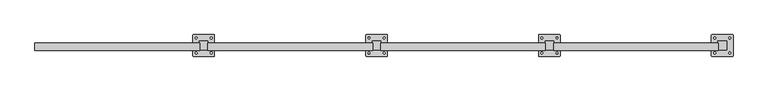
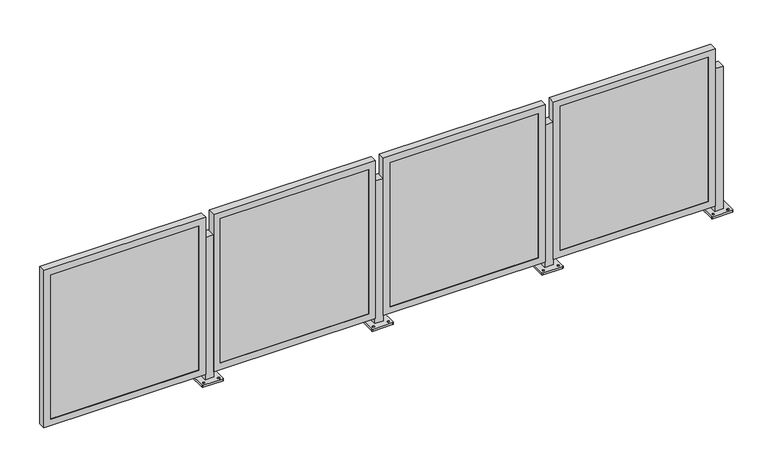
"""IFC4 building model written with IfcOpenShell, lengths in millimetres: railing geometry, Railing - Amico Architectural - Perforated Railing - Apex04."""

from ifc_helpers import new_model, si_unit, frame, origin, place, context, project, spatial, polyline, circle_curve, outline, extrude, faceted_brep, source, transform, mapped, element, save
from ifc_brep_helpers import plane_surface, cylinder_surface, revolved_surface, advanced_brep


def railing_f84e100f(model_context):
    return source(origin(), model_context, "Body", "SolidModel", [
        advanced_brep(
        [(-7234.771202, 4857.370021, 914.4), (-7234.771202, 4806.570021, 914.4), (-7183.971202, 4806.570021, 914.4), (-7183.971202, 4857.370021, 914.4), (-7272.8712022, 4771.645062, 0.0), (-7272.8712022, 4892.29498, 0.0), (-7269.696174, 4895.4700081, 0.0), (-7149.04623, 4895.4700081, 0.0), (-7145.8712019, 4892.29498, 0.0), (-7145.8712019, 4771.645062, 0.0), (-7149.04623, 4768.4700339, 0.0), (-7269.696174, 4768.4700339, 0.0), (-7253.8211896, 4781.9637664, 0.0), (-7253.8211896, 4793.0762788, 0.0), (-7253.8212005, 4870.8637707, 0.0), (-7253.8212005, 4881.9762523, 0.0), (-7164.9211886, 4781.9637679, 0.0), (-7164.9211886, 4793.0762786, 0.0), (-7164.9211995, 4870.8637723, 0.0), (-7164.9211995, 4881.9762521, 0.0), (-7234.771202, 4857.370021, 12.7), (-7234.771202, 4806.570021, 12.7), (-7183.971202, 4806.570021, 12.7), (-7183.971202, 4857.370021, 12.7), (-7272.8712022, 4771.645062, 12.7), (-7269.696174, 4768.4700339, 12.7), (-7149.04623, 4768.4700339, 12.7), (-7145.8712019, 4771.645062, 12.7), (-7145.8712019, 4892.29498, 12.7), (-7149.04623, 4895.4700081, 12.7), (-7269.696174, 4895.4700081, 12.7), (-7272.8712022, 4892.29498, 12.7), (-7253.8211896, 4781.9637664, 12.7), (-7253.8211896, 4793.0762788, 12.7), (-7253.8212005, 4870.8637707, 12.7), (-7253.8212005, 4881.9762523, 12.7), (-7164.9211886, 4781.9637679, 12.7), (-7164.9211886, 4793.0762786, 12.7), (-7164.9211995, 4870.8637723, 12.7), (-7164.9211995, 4881.9762521, 12.7)],
        [
            (0, 1),
            (1, 2),
            (2, 3),
            (3, 0),
            (4, 5),
            (5, 6, circle_curve(frame((-7269.696174, 4892.29498, 0.0), z_axis=(0.0, 0.0, -1.0), x_axis=(0.0, 1.0, 0.0)), 3.1750282)),
            (6, 7),
            (7, 8, circle_curve(frame((-7149.04623, 4892.29498, 0.0), z_axis=(0.0, 0.0, -1.0), x_axis=(0.0, 1.0, 0.0)), 3.1750282)),
            (8, 9),
            (9, 10, circle_curve(frame((-7149.04623, 4771.645062, 0.0), z_axis=(0.0, 0.0, -1.0), x_axis=(0.0, 1.0, 0.0)), 3.1750282)),
            (10, 11),
            (11, 4, circle_curve(frame((-7269.696174, 4771.645062, 0.0), z_axis=(0.0, 0.0, -1.0), x_axis=(0.0, 1.0, 0.0)), 3.1750282)),
            (12, 13, circle_curve(frame((-7253.8211896, 4787.5200226, 0.0), z_axis=(0.0, 0.0, 1.0), x_axis=(0.0, 1.0, 0.0)), 5.5562562)),
            (13, 12, circle_curve(frame((-7253.8211896, 4787.5200226, 0.0), z_axis=(0.0, 0.0, 1.0), x_axis=(0.0, 1.0, 0.0)), 5.5562562)),
            (14, 15, circle_curve(frame((-7253.8212005, 4876.4200115, 0.0), z_axis=(0.0, 0.0, 1.0), x_axis=(0.0, 1.0, 0.0)), 5.5562408)),
            (15, 14, circle_curve(frame((-7253.8212005, 4876.4200115, 0.0), z_axis=(0.0, 0.0, 1.0), x_axis=(0.0, 1.0, 0.0)), 5.5562408)),
            (16, 17, circle_curve(frame((-7164.9211886, 4787.5200232, 0.0), z_axis=(0.0, 0.0, 1.0), x_axis=(0.0, 1.0, 0.0)), 5.5562553)),
            (17, 16, circle_curve(frame((-7164.9211886, 4787.5200232, 0.0), z_axis=(0.0, 0.0, 1.0), x_axis=(0.0, 1.0, 0.0)), 5.5562553)),
            (18, 19, circle_curve(frame((-7164.9211995, 4876.4200122, 0.0), z_axis=(0.0, 0.0, 1.0), x_axis=(0.0, 1.0, 0.0)), 5.5562399)),
            (19, 18, circle_curve(frame((-7164.9211995, 4876.4200122, 0.0), z_axis=(0.0, 0.0, 1.0), x_axis=(0.0, 1.0, 0.0)), 5.5562399)),
            (0, 20),
            (20, 21),
            (21, 1),
            (21, 22),
            (22, 2),
            (22, 23),
            (23, 3),
            (23, 20),
            (24, 25, circle_curve(frame((-7269.696174, 4771.645062, 12.7), z_axis=(0.0, 0.0, 1.0), x_axis=(0.0, 1.0, 0.0)), 3.1750282)),
            (25, 26),
            (26, 27, circle_curve(frame((-7149.04623, 4771.645062, 12.7), z_axis=(0.0, 0.0, 1.0), x_axis=(0.0, 1.0, 0.0)), 3.1750282)),
            (27, 28),
            (28, 29, circle_curve(frame((-7149.04623, 4892.29498, 12.7), z_axis=(0.0, 0.0, 1.0), x_axis=(0.0, 1.0, 0.0)), 3.1750282)),
            (29, 30),
            (30, 31, circle_curve(frame((-7269.696174, 4892.29498, 12.7), z_axis=(0.0, 0.0, 1.0), x_axis=(0.0, 1.0, 0.0)), 3.1750282)),
            (31, 24),
            (32, 33, circle_curve(frame((-7253.8211896, 4787.5200226, 12.7), z_axis=(0.0, 0.0, -1.0), x_axis=(0.0, 1.0, 0.0)), 5.5562562)),
            (33, 32, circle_curve(frame((-7253.8211896, 4787.5200226, 12.7), z_axis=(0.0, 0.0, -1.0), x_axis=(0.0, 1.0, 0.0)), 5.5562562)),
            (34, 35, circle_curve(frame((-7253.8212005, 4876.4200115, 12.7), z_axis=(0.0, 0.0, -1.0), x_axis=(0.0, 1.0, 0.0)), 5.5562408)),
            (35, 34, circle_curve(frame((-7253.8212005, 4876.4200115, 12.7), z_axis=(0.0, 0.0, -1.0), x_axis=(0.0, 1.0, 0.0)), 5.5562408)),
            (36, 37, circle_curve(frame((-7164.9211886, 4787.5200232, 12.7), z_axis=(0.0, 0.0, -1.0), x_axis=(0.0, 1.0, 0.0)), 5.5562553)),
            (37, 36, circle_curve(frame((-7164.9211886, 4787.5200232, 12.7), z_axis=(0.0, 0.0, -1.0), x_axis=(0.0, 1.0, 0.0)), 5.5562553)),
            (38, 39, circle_curve(frame((-7164.9211995, 4876.4200122, 12.7), z_axis=(0.0, 0.0, -1.0), x_axis=(0.0, 1.0, 0.0)), 5.5562399)),
            (39, 38, circle_curve(frame((-7164.9211995, 4876.4200122, 12.7), z_axis=(0.0, 0.0, -1.0), x_axis=(0.0, 1.0, 0.0)), 5.5562399)),
            (24, 4),
            (11, 25),
            (10, 26),
            (9, 27),
            (8, 28),
            (7, 29),
            (6, 30),
            (5, 31),
            (32, 12),
            (13, 33),
            (34, 14),
            (15, 35),
            (36, 16),
            (17, 37),
            (38, 18),
            (19, 39),
        ],
        [
            plane_surface(frame((-7234.771202, 4806.570021, 914.4), z_axis=(0.0, 0.0, 1.0), x_axis=(0.0, -1.0, 0.0))),
            plane_surface(frame((-7234.771202, 4806.570021, 0.0), z_axis=(0.0, 0.0, -1.0), x_axis=(0.0, 1.0, 0.0))),
            plane_surface(frame((-7234.771202, 4857.370021, 914.4), z_axis=(-1.0, 0.0, 0.0), x_axis=(0.0, 0.0, -1.0))),
            plane_surface(frame((-7234.771202, 4806.570021, 914.4), z_axis=(0.0, -1.0, 0.0), x_axis=(0.0, 0.0, -1.0))),
            plane_surface(frame((-7183.971202, 4806.570021, 914.4), z_axis=(1.0, 0.0, 0.0), x_axis=(0.0, 0.0, -1.0))),
            plane_surface(frame((-7183.971202, 4857.370021, 914.4), z_axis=(0.0, 1.0, 0.0), x_axis=(0.0, 0.0, -1.0))),
            plane_surface(frame((-7269.696174, 4774.8200902, 12.7), z_axis=(0.0, 0.0, 1.0), x_axis=(-1.0, 0.0, 0.0))),
            cylinder_surface(frame((-7269.696174, 4771.645062, 0.0), z_axis=(0.0, 0.0, 1.0), x_axis=(0.0, 1.0, 0.0)), 3.1750282),
            plane_surface(frame((-7269.696174, 4768.4700339, 12.7), z_axis=(1.1945386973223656e-12, -1.0, 0.0), x_axis=(0.0, 0.0, -1.0))),
            cylinder_surface(frame((-7149.04623, 4771.645062, 0.0), z_axis=(0.0, 0.0, 1.0), x_axis=(0.0, 1.0, 0.0)), 3.1750282),
            plane_surface(frame((-7145.8712019, 4771.645062, 12.7), z_axis=(1.0, 0.0, 0.0), x_axis=(0.0, 0.0, -1.0))),
            cylinder_surface(frame((-7149.04623, 4892.29498, 0.0), z_axis=(0.0, 0.0, 1.0), x_axis=(0.0, 1.0, 0.0)), 3.1750282),
            plane_surface(frame((-7149.04623, 4895.4700081, 12.7), z_axis=(-1.1946088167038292e-12, 1.0, 0.0), x_axis=(0.0, 0.0, -1.0))),
            cylinder_surface(frame((-7269.696174, 4892.29498, 0.0), z_axis=(0.0, 0.0, 1.0), x_axis=(0.0, 1.0, 0.0)), 3.1750282),
            plane_surface(frame((-7272.8712022, 4892.29498, 12.7), z_axis=(-1.0, 0.0, 0.0), x_axis=(0.0, 0.0, -1.0))),
            revolved_surface(polyline([(-7253.8211896, 4793.076278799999, 0.0), (-7253.8211896, 4793.076278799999, 12.7)]), (-7253.8211896, 4787.5200226, 0.0), (0.0, 0.0, -1.0)),
            revolved_surface(polyline([(-7253.8212005, 4881.9762523, 0.0), (-7253.8212005, 4881.9762523, 12.7)]), (-7253.8212005, 4876.4200115, 0.0), (0.0, 0.0, -1.0)),
            revolved_surface(polyline([(-7164.9211886, 4793.0762785, 0.0), (-7164.9211886, 4793.0762785, 12.7)]), (-7164.9211886, 4787.5200232, 0.0), (0.0, 0.0, -1.0)),
            revolved_surface(polyline([(-7164.9211995, 4881.9762521, 0.0), (-7164.9211995, 4881.9762521, 12.7)]), (-7164.9211995, 4876.4200122, 0.0), (0.0, 0.0, -1.0)),
        ],
        [
            (0, [[1, 2, 3, 4]]),
            (1, [[5, 6, 7, 8, 9, 10, 11, 12], [13, 14], [15, 16], [17, 18], [19, 20]]),
            (2, [[-1, 21, 22, 23]]),
            (3, [[-2, -23, 24, 25]]),
            (4, [[-3, -25, 26, 27]]),
            (5, [[-4, -27, 28, -21]]),
            (6, [[29, 30, 31, 32, 33, 34, 35, 36], [-22, -28, -26, -24], [37, 38], [39, 40], [41, 42], [43, 44]]),
            (7, [[-29, 45, -12, 46]]),
            (8, [[-30, -46, -11, 47]]),
            (9, [[-31, -47, -10, 48]]),
            (10, [[-32, -48, -9, 49]]),
            (11, [[-33, -49, -8, 50]]),
            (12, [[-34, -50, -7, 51]]),
            (13, [[-35, -51, -6, 52]]),
            (14, [[-36, -52, -5, -45]]),
            (15, [[-37, 53, -14, 54]]),
            (15, [[-38, -54, -13, -53]]),
            (16, [[-39, 55, -16, 56]]),
            (16, [[-40, -56, -15, -55]]),
            (17, [[-41, 57, -18, 58]]),
            (17, [[-42, -58, -17, -57]]),
            (18, [[-43, 59, -20, 60]]),
            (18, [[-44, -60, -19, -59]]),
        ],
    ),
        faceted_brep([(-8201.1756554, 4803.826821, 47.625), (-7232.8006554, 4803.826821, 47.625), (-7232.8006554, 4803.826821, 1044.575), (-8201.1756554, 4803.826821, 1044.575), (-8159.9006554, 4803.826821, 1003.3), (-7274.0756554, 4803.826821, 1003.3), (-7274.0756554, 4803.826821, 88.9), (-8159.9006554, 4803.826821, 88.9), (-8159.9006554, 4806.570021, 1003.3), (-8159.9006554, 4806.570021, 88.9), (-8201.1756554, 4847.7001175, 1044.575), (-8201.1756554, 4847.7001175, 47.625), (-8198.0006554, 4847.7001175, 1041.4), (-8198.0006554, 4806.570021, 1041.4), (-8198.0006554, 4806.570021, 50.8), (-8198.0006554, 4847.7001175, 50.8), (-7274.0756554, 4806.570021, 88.9), (-7232.8006554, 4847.7001175, 47.625), (-7235.9756554, 4806.570021, 50.8), (-7235.9756554, 4847.7001175, 50.8), (-7274.0756554, 4806.570021, 1003.3), (-7232.8006554, 4847.7001175, 1044.575), (-7235.9756554, 4806.570021, 1041.4), (-7235.9756554, 4847.7001175, 1041.4)], [[[0, 1, 2, 3], [4, 5, 6, 7]], [[8, 4, 7, 9]], [[3, 10, 11, 0]], [[12, 13, 14, 15]], [[9, 7, 6, 16]], [[0, 11, 17, 1]], [[15, 14, 18, 19]], [[16, 6, 5, 20]], [[1, 17, 21, 2]], [[19, 18, 22, 23]], [[20, 5, 4, 8]], [[10, 21, 17, 11], [15, 19, 23, 12]], [[2, 21, 10, 3]], [[13, 22, 18, 14], [9, 16, 20, 8]], [[23, 22, 13, 12]]]),
        extrude(outline(polyline([(-8198.0006554, 4816.095021), (-7235.9756554, 4816.095021), (-7235.9756554, 4806.570021), (-8198.0006554, 4806.570021), (-8198.0006554, 4816.095021)])), frame((0.0, 0.0, 50.8), z_axis=(0.0, 0.0, 1.0), x_axis=(1.0, 0.0, 0.0)), (0.0, 0.0, 1.0), 990.6),
        advanced_brep(
        [(-8250.771202, 4857.370021, 914.4), (-8250.771202, 4806.570021, 914.4), (-8199.971202, 4806.570021, 914.4), (-8199.971202, 4857.370021, 914.4), (-8288.8712022, 4771.645062, 0.0), (-8288.8712022, 4892.29498, 0.0), (-8285.696174, 4895.4700081, 0.0), (-8165.04623, 4895.4700081, 0.0), (-8161.8712019, 4892.29498, 0.0), (-8161.8712019, 4771.645062, 0.0), (-8165.04623, 4768.4700339, 0.0), (-8285.696174, 4768.4700339, 0.0), (-8269.8211896, 4781.9637664, 0.0), (-8269.8211896, 4793.0762788, 0.0), (-8269.8212005, 4870.8637707, 0.0), (-8269.8212005, 4881.9762523, 0.0), (-8180.9211886, 4781.9637679, 0.0), (-8180.9211886, 4793.0762786, 0.0), (-8180.9211995, 4870.8637723, 0.0), (-8180.9211995, 4881.9762521, 0.0), (-8250.771202, 4857.370021, 12.7), (-8250.771202, 4806.570021, 12.7), (-8199.971202, 4806.570021, 12.7), (-8199.971202, 4857.370021, 12.7), (-8288.8712022, 4771.645062, 12.7), (-8285.696174, 4768.4700339, 12.7), (-8165.04623, 4768.4700339, 12.7), (-8161.8712019, 4771.645062, 12.7), (-8161.8712019, 4892.29498, 12.7), (-8165.04623, 4895.4700081, 12.7), (-8285.696174, 4895.4700081, 12.7), (-8288.8712022, 4892.29498, 12.7), (-8269.8211896, 4781.9637664, 12.7), (-8269.8211896, 4793.0762788, 12.7), (-8269.8212005, 4870.8637707, 12.7), (-8269.8212005, 4881.9762523, 12.7), (-8180.9211886, 4781.9637679, 12.7), (-8180.9211886, 4793.0762786, 12.7), (-8180.9211995, 4870.8637723, 12.7), (-8180.9211995, 4881.9762521, 12.7)],
        [
            (0, 1),
            (1, 2),
            (2, 3),
            (3, 0),
            (4, 5),
            (5, 6, circle_curve(frame((-8285.696174, 4892.29498, 0.0), z_axis=(0.0, 0.0, -1.0), x_axis=(0.0, 1.0, 0.0)), 3.1750282)),
            (6, 7),
            (7, 8, circle_curve(frame((-8165.04623, 4892.29498, 0.0), z_axis=(0.0, 0.0, -1.0), x_axis=(0.0, 1.0, 0.0)), 3.1750282)),
            (8, 9),
            (9, 10, circle_curve(frame((-8165.04623, 4771.645062, 0.0), z_axis=(0.0, 0.0, -1.0), x_axis=(0.0, 1.0, 0.0)), 3.1750282)),
            (10, 11),
            (11, 4, circle_curve(frame((-8285.696174, 4771.645062, 0.0), z_axis=(0.0, 0.0, -1.0), x_axis=(0.0, 1.0, 0.0)), 3.1750282)),
            (12, 13, circle_curve(frame((-8269.8211896, 4787.5200226, 0.0), z_axis=(0.0, 0.0, 1.0), x_axis=(0.0, 1.0, 0.0)), 5.5562562)),
            (13, 12, circle_curve(frame((-8269.8211896, 4787.5200226, 0.0), z_axis=(0.0, 0.0, 1.0), x_axis=(0.0, 1.0, 0.0)), 5.5562562)),
            (14, 15, circle_curve(frame((-8269.8212005, 4876.4200115, 0.0), z_axis=(0.0, 0.0, 1.0), x_axis=(0.0, 1.0, 0.0)), 5.5562408)),
            (15, 14, circle_curve(frame((-8269.8212005, 4876.4200115, 0.0), z_axis=(0.0, 0.0, 1.0), x_axis=(0.0, 1.0, 0.0)), 5.5562408)),
            (16, 17, circle_curve(frame((-8180.9211886, 4787.5200232, 0.0), z_axis=(0.0, 0.0, 1.0), x_axis=(0.0, 1.0, 0.0)), 5.5562553)),
            (17, 16, circle_curve(frame((-8180.9211886, 4787.5200232, 0.0), z_axis=(0.0, 0.0, 1.0), x_axis=(0.0, 1.0, 0.0)), 5.5562553)),
            (18, 19, circle_curve(frame((-8180.9211995, 4876.4200122, 0.0), z_axis=(0.0, 0.0, 1.0), x_axis=(0.0, 1.0, 0.0)), 5.5562399)),
            (19, 18, circle_curve(frame((-8180.9211995, 4876.4200122, 0.0), z_axis=(0.0, 0.0, 1.0), x_axis=(0.0, 1.0, 0.0)), 5.5562399)),
            (0, 20),
            (20, 21),
            (21, 1),
            (21, 22),
            (22, 2),
            (22, 23),
            (23, 3),
            (23, 20),
            (24, 25, circle_curve(frame((-8285.696174, 4771.645062, 12.7), z_axis=(0.0, 0.0, 1.0), x_axis=(0.0, 1.0, 0.0)), 3.1750282)),
            (25, 26),
            (26, 27, circle_curve(frame((-8165.04623, 4771.645062, 12.7), z_axis=(0.0, 0.0, 1.0), x_axis=(0.0, 1.0, 0.0)), 3.1750282)),
            (27, 28),
            (28, 29, circle_curve(frame((-8165.04623, 4892.29498, 12.7), z_axis=(0.0, 0.0, 1.0), x_axis=(0.0, 1.0, 0.0)), 3.1750282)),
            (29, 30),
            (30, 31, circle_curve(frame((-8285.696174, 4892.29498, 12.7), z_axis=(0.0, 0.0, 1.0), x_axis=(0.0, 1.0, 0.0)), 3.1750282)),
            (31, 24),
            (32, 33, circle_curve(frame((-8269.8211896, 4787.5200226, 12.7), z_axis=(0.0, 0.0, -1.0), x_axis=(0.0, 1.0, 0.0)), 5.5562562)),
            (33, 32, circle_curve(frame((-8269.8211896, 4787.5200226, 12.7), z_axis=(0.0, 0.0, -1.0), x_axis=(0.0, 1.0, 0.0)), 5.5562562)),
            (34, 35, circle_curve(frame((-8269.8212005, 4876.4200115, 12.7), z_axis=(0.0, 0.0, -1.0), x_axis=(0.0, 1.0, 0.0)), 5.5562408)),
            (35, 34, circle_curve(frame((-8269.8212005, 4876.4200115, 12.7), z_axis=(0.0, 0.0, -1.0), x_axis=(0.0, 1.0, 0.0)), 5.5562408)),
            (36, 37, circle_curve(frame((-8180.9211886, 4787.5200232, 12.7), z_axis=(0.0, 0.0, -1.0), x_axis=(0.0, 1.0, 0.0)), 5.5562553)),
            (37, 36, circle_curve(frame((-8180.9211886, 4787.5200232, 12.7), z_axis=(0.0, 0.0, -1.0), x_axis=(0.0, 1.0, 0.0)), 5.5562553)),
            (38, 39, circle_curve(frame((-8180.9211995, 4876.4200122, 12.7), z_axis=(0.0, 0.0, -1.0), x_axis=(0.0, 1.0, 0.0)), 5.5562399)),
            (39, 38, circle_curve(frame((-8180.9211995, 4876.4200122, 12.7), z_axis=(0.0, 0.0, -1.0), x_axis=(0.0, 1.0, 0.0)), 5.5562399)),
            (24, 4),
            (11, 25),
            (10, 26),
            (9, 27),
            (8, 28),
            (7, 29),
            (6, 30),
            (5, 31),
            (32, 12),
            (13, 33),
            (34, 14),
            (15, 35),
            (36, 16),
            (17, 37),
            (38, 18),
            (19, 39),
        ],
        [
            plane_surface(frame((-8250.771202, 4806.570021, 914.4), z_axis=(0.0, 0.0, 1.0), x_axis=(0.0, -1.0, 0.0))),
            plane_surface(frame((-8250.771202, 4806.570021, 0.0), z_axis=(0.0, 0.0, -1.0), x_axis=(0.0, 1.0, 0.0))),
            plane_surface(frame((-8250.771202, 4857.370021, 914.4), z_axis=(-1.0, 0.0, 0.0), x_axis=(0.0, 0.0, -1.0))),
            plane_surface(frame((-8250.771202, 4806.570021, 914.4), z_axis=(0.0, -1.0, 0.0), x_axis=(0.0, 0.0, -1.0))),
            plane_surface(frame((-8199.971202, 4806.570021, 914.4), z_axis=(1.0, 0.0, 0.0), x_axis=(0.0, 0.0, -1.0))),
            plane_surface(frame((-8199.971202, 4857.370021, 914.4), z_axis=(0.0, 1.0, 0.0), x_axis=(0.0, 0.0, -1.0))),
            plane_surface(frame((-8285.696174, 4774.8200902, 12.7), z_axis=(0.0, 0.0, 1.0), x_axis=(-1.0, 0.0, 0.0))),
            cylinder_surface(frame((-8285.696174, 4771.645062, 0.0), z_axis=(0.0, 0.0, 1.0), x_axis=(0.0, 1.0, 0.0)), 3.1750282),
            plane_surface(frame((-8285.696174, 4768.4700339, 12.7), z_axis=(1.1945386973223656e-12, -1.0, 0.0), x_axis=(0.0, 0.0, -1.0))),
            cylinder_surface(frame((-8165.04623, 4771.645062, 0.0), z_axis=(0.0, 0.0, 1.0), x_axis=(0.0, 1.0, 0.0)), 3.1750282),
            plane_surface(frame((-8161.8712019, 4771.645062, 12.7), z_axis=(1.0, 0.0, 0.0), x_axis=(0.0, 0.0, -1.0))),
            cylinder_surface(frame((-8165.04623, 4892.29498, 0.0), z_axis=(0.0, 0.0, 1.0), x_axis=(0.0, 1.0, 0.0)), 3.1750282),
            plane_surface(frame((-8165.04623, 4895.4700081, 12.7), z_axis=(-1.1946088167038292e-12, 1.0, 0.0), x_axis=(0.0, 0.0, -1.0))),
            cylinder_surface(frame((-8285.696174, 4892.29498, 0.0), z_axis=(0.0, 0.0, 1.0), x_axis=(0.0, 1.0, 0.0)), 3.1750282),
            plane_surface(frame((-8288.8712022, 4892.29498, 12.7), z_axis=(-1.0, 0.0, 0.0), x_axis=(0.0, 0.0, -1.0))),
            revolved_surface(polyline([(-8269.8211896, 4793.076278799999, 0.0), (-8269.8211896, 4793.076278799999, 12.7)]), (-8269.8211896, 4787.5200226, 0.0), (0.0, 0.0, -1.0)),
            revolved_surface(polyline([(-8269.8212005, 4881.9762523, 0.0), (-8269.8212005, 4881.9762523, 12.7)]), (-8269.8212005, 4876.4200115, 0.0), (0.0, 0.0, -1.0)),
            revolved_surface(polyline([(-8180.9211886, 4793.0762785, 0.0), (-8180.9211886, 4793.0762785, 12.7)]), (-8180.9211886, 4787.5200232, 0.0), (0.0, 0.0, -1.0)),
            revolved_surface(polyline([(-8180.9211995, 4881.9762521, 0.0), (-8180.9211995, 4881.9762521, 12.7)]), (-8180.9211995, 4876.4200122, 0.0), (0.0, 0.0, -1.0)),
        ],
        [
            (0, [[1, 2, 3, 4]]),
            (1, [[5, 6, 7, 8, 9, 10, 11, 12], [13, 14], [15, 16], [17, 18], [19, 20]]),
            (2, [[-1, 21, 22, 23]]),
            (3, [[-2, -23, 24, 25]]),
            (4, [[-3, -25, 26, 27]]),
            (5, [[-4, -27, 28, -21]]),
            (6, [[29, 30, 31, 32, 33, 34, 35, 36], [-22, -28, -26, -24], [37, 38], [39, 40], [41, 42], [43, 44]]),
            (7, [[-29, 45, -12, 46]]),
            (8, [[-30, -46, -11, 47]]),
            (9, [[-31, -47, -10, 48]]),
            (10, [[-32, -48, -9, 49]]),
            (11, [[-33, -49, -8, 50]]),
            (12, [[-34, -50, -7, 51]]),
            (13, [[-35, -51, -6, 52]]),
            (14, [[-36, -52, -5, -45]]),
            (15, [[-37, 53, -14, 54]]),
            (15, [[-38, -54, -13, -53]]),
            (16, [[-39, 55, -16, 56]]),
            (16, [[-40, -56, -15, -55]]),
            (17, [[-41, 57, -18, 58]]),
            (17, [[-42, -58, -17, -57]]),
            (18, [[-43, 59, -20, 60]]),
            (18, [[-44, -60, -19, -59]]),
        ],
    ),
        faceted_brep([(-9217.1756554, 4803.826821, 47.625), (-8248.8006554, 4803.826821, 47.625), (-8248.8006554, 4803.826821, 1044.575), (-9217.1756554, 4803.826821, 1044.575), (-9175.9006554, 4803.826821, 1003.3), (-8290.0756554, 4803.826821, 1003.3), (-8290.0756554, 4803.826821, 88.9), (-9175.9006554, 4803.826821, 88.9), (-9175.9006554, 4806.570021, 1003.3), (-9175.9006554, 4806.570021, 88.9), (-9217.1756554, 4847.7001175, 1044.575), (-9217.1756554, 4847.7001175, 47.625), (-9214.0006554, 4847.7001175, 1041.4), (-9214.0006554, 4806.570021, 1041.4), (-9214.0006554, 4806.570021, 50.8), (-9214.0006554, 4847.7001175, 50.8), (-8290.0756554, 4806.570021, 88.9), (-8248.8006554, 4847.7001175, 47.625), (-8251.9756554, 4806.570021, 50.8), (-8251.9756554, 4847.7001175, 50.8), (-8290.0756554, 4806.570021, 1003.3), (-8248.8006554, 4847.7001175, 1044.575), (-8251.9756554, 4806.570021, 1041.4), (-8251.9756554, 4847.7001175, 1041.4)], [[[0, 1, 2, 3], [4, 5, 6, 7]], [[8, 4, 7, 9]], [[3, 10, 11, 0]], [[12, 13, 14, 15]], [[9, 7, 6, 16]], [[0, 11, 17, 1]], [[15, 14, 18, 19]], [[16, 6, 5, 20]], [[1, 17, 21, 2]], [[19, 18, 22, 23]], [[20, 5, 4, 8]], [[10, 21, 17, 11], [15, 19, 23, 12]], [[2, 21, 10, 3]], [[13, 22, 18, 14], [9, 16, 20, 8]], [[23, 22, 13, 12]]]),
        extrude(outline(polyline([(-9214.0006554, 4816.095021), (-8251.9756554, 4816.095021), (-8251.9756554, 4806.570021), (-9214.0006554, 4806.570021), (-9214.0006554, 4816.095021)])), frame((0.0, 0.0, 50.8), z_axis=(0.0, 0.0, 1.0), x_axis=(1.0, 0.0, 0.0)), (0.0, 0.0, 1.0), 990.6),
        advanced_brep(
        [(-9266.771202, 4857.370021, 914.4), (-9266.771202, 4806.570021, 914.4), (-9215.971202, 4806.570021, 914.4), (-9215.971202, 4857.370021, 914.4), (-9304.8712022, 4771.645062, 0.0), (-9304.8712022, 4892.29498, 0.0), (-9301.696174, 4895.4700081, 0.0), (-9181.04623, 4895.4700081, 0.0), (-9177.8712019, 4892.29498, 0.0), (-9177.8712019, 4771.645062, 0.0), (-9181.04623, 4768.4700339, 0.0), (-9301.696174, 4768.4700339, 0.0), (-9285.8211896, 4781.9637664, 0.0), (-9285.8211896, 4793.0762788, 0.0), (-9285.8212005, 4870.8637707, 0.0), (-9285.8212005, 4881.9762523, 0.0), (-9196.9211886, 4781.9637679, 0.0), (-9196.9211886, 4793.0762786, 0.0), (-9196.9211995, 4870.8637723, 0.0), (-9196.9211995, 4881.9762521, 0.0), (-9266.771202, 4857.370021, 12.7), (-9266.771202, 4806.570021, 12.7), (-9215.971202, 4806.570021, 12.7), (-9215.971202, 4857.370021, 12.7), (-9304.8712022, 4771.645062, 12.7), (-9301.696174, 4768.4700339, 12.7), (-9181.04623, 4768.4700339, 12.7), (-9177.8712019, 4771.645062, 12.7), (-9177.8712019, 4892.29498, 12.7), (-9181.04623, 4895.4700081, 12.7), (-9301.696174, 4895.4700081, 12.7), (-9304.8712022, 4892.29498, 12.7), (-9285.8211896, 4781.9637664, 12.7), (-9285.8211896, 4793.0762788, 12.7), (-9285.8212005, 4870.8637707, 12.7), (-9285.8212005, 4881.9762523, 12.7), (-9196.9211886, 4781.9637679, 12.7), (-9196.9211886, 4793.0762786, 12.7), (-9196.9211995, 4870.8637723, 12.7), (-9196.9211995, 4881.9762521, 12.7)],
        [
            (0, 1),
            (1, 2),
            (2, 3),
            (3, 0),
            (4, 5),
            (5, 6, circle_curve(frame((-9301.696174, 4892.29498, 0.0), z_axis=(0.0, 0.0, -1.0), x_axis=(0.0, 1.0, 0.0)), 3.1750282)),
            (6, 7),
            (7, 8, circle_curve(frame((-9181.04623, 4892.29498, 0.0), z_axis=(0.0, 0.0, -1.0), x_axis=(0.0, 1.0, 0.0)), 3.1750282)),
            (8, 9),
            (9, 10, circle_curve(frame((-9181.04623, 4771.645062, 0.0), z_axis=(0.0, 0.0, -1.0), x_axis=(0.0, 1.0, 0.0)), 3.1750282)),
            (10, 11),
            (11, 4, circle_curve(frame((-9301.696174, 4771.645062, 0.0), z_axis=(0.0, 0.0, -1.0), x_axis=(0.0, 1.0, 0.0)), 3.1750282)),
            (12, 13, circle_curve(frame((-9285.8211896, 4787.5200226, 0.0), z_axis=(0.0, 0.0, 1.0), x_axis=(0.0, 1.0, 0.0)), 5.5562562)),
            (13, 12, circle_curve(frame((-9285.8211896, 4787.5200226, 0.0), z_axis=(0.0, 0.0, 1.0), x_axis=(0.0, 1.0, 0.0)), 5.5562562)),
            (14, 15, circle_curve(frame((-9285.8212005, 4876.4200115, 0.0), z_axis=(0.0, 0.0, 1.0), x_axis=(0.0, 1.0, 0.0)), 5.5562408)),
            (15, 14, circle_curve(frame((-9285.8212005, 4876.4200115, 0.0), z_axis=(0.0, 0.0, 1.0), x_axis=(0.0, 1.0, 0.0)), 5.5562408)),
            (16, 17, circle_curve(frame((-9196.9211886, 4787.5200232, 0.0), z_axis=(0.0, 0.0, 1.0), x_axis=(0.0, 1.0, 0.0)), 5.5562553)),
            (17, 16, circle_curve(frame((-9196.9211886, 4787.5200232, 0.0), z_axis=(0.0, 0.0, 1.0), x_axis=(0.0, 1.0, 0.0)), 5.5562553)),
            (18, 19, circle_curve(frame((-9196.9211995, 4876.4200122, 0.0), z_axis=(0.0, 0.0, 1.0), x_axis=(0.0, 1.0, 0.0)), 5.5562399)),
            (19, 18, circle_curve(frame((-9196.9211995, 4876.4200122, 0.0), z_axis=(0.0, 0.0, 1.0), x_axis=(0.0, 1.0, 0.0)), 5.5562399)),
            (0, 20),
            (20, 21),
            (21, 1),
            (21, 22),
            (22, 2),
            (22, 23),
            (23, 3),
            (23, 20),
            (24, 25, circle_curve(frame((-9301.696174, 4771.645062, 12.7), z_axis=(0.0, 0.0, 1.0), x_axis=(0.0, 1.0, 0.0)), 3.1750282)),
            (25, 26),
            (26, 27, circle_curve(frame((-9181.04623, 4771.645062, 12.7), z_axis=(0.0, 0.0, 1.0), x_axis=(0.0, 1.0, 0.0)), 3.1750282)),
            (27, 28),
            (28, 29, circle_curve(frame((-9181.04623, 4892.29498, 12.7), z_axis=(0.0, 0.0, 1.0), x_axis=(0.0, 1.0, 0.0)), 3.1750282)),
            (29, 30),
            (30, 31, circle_curve(frame((-9301.696174, 4892.29498, 12.7), z_axis=(0.0, 0.0, 1.0), x_axis=(0.0, 1.0, 0.0)), 3.1750282)),
            (31, 24),
            (32, 33, circle_curve(frame((-9285.8211896, 4787.5200226, 12.7), z_axis=(0.0, 0.0, -1.0), x_axis=(0.0, 1.0, 0.0)), 5.5562562)),
            (33, 32, circle_curve(frame((-9285.8211896, 4787.5200226, 12.7), z_axis=(0.0, 0.0, -1.0), x_axis=(0.0, 1.0, 0.0)), 5.5562562)),
            (34, 35, circle_curve(frame((-9285.8212005, 4876.4200115, 12.7), z_axis=(0.0, 0.0, -1.0), x_axis=(0.0, 1.0, 0.0)), 5.5562408)),
            (35, 34, circle_curve(frame((-9285.8212005, 4876.4200115, 12.7), z_axis=(0.0, 0.0, -1.0), x_axis=(0.0, 1.0, 0.0)), 5.5562408)),
            (36, 37, circle_curve(frame((-9196.9211886, 4787.5200232, 12.7), z_axis=(0.0, 0.0, -1.0), x_axis=(0.0, 1.0, 0.0)), 5.5562553)),
            (37, 36, circle_curve(frame((-9196.9211886, 4787.5200232, 12.7), z_axis=(0.0, 0.0, -1.0), x_axis=(0.0, 1.0, 0.0)), 5.5562553)),
            (38, 39, circle_curve(frame((-9196.9211995, 4876.4200122, 12.7), z_axis=(0.0, 0.0, -1.0), x_axis=(0.0, 1.0, 0.0)), 5.5562399)),
            (39, 38, circle_curve(frame((-9196.9211995, 4876.4200122, 12.7), z_axis=(0.0, 0.0, -1.0), x_axis=(0.0, 1.0, 0.0)), 5.5562399)),
            (24, 4),
            (11, 25),
            (10, 26),
            (9, 27),
            (8, 28),
            (7, 29),
            (6, 30),
            (5, 31),
            (32, 12),
            (13, 33),
            (34, 14),
            (15, 35),
            (36, 16),
            (17, 37),
            (38, 18),
            (19, 39),
        ],
        [
            plane_surface(frame((-9266.771202, 4806.570021, 914.4), z_axis=(0.0, 0.0, 1.0), x_axis=(0.0, -1.0, 0.0))),
            plane_surface(frame((-9266.771202, 4806.570021, 0.0), z_axis=(0.0, 0.0, -1.0), x_axis=(0.0, 1.0, 0.0))),
            plane_surface(frame((-9266.771202, 4857.370021, 914.4), z_axis=(-1.0, 0.0, 0.0), x_axis=(0.0, 0.0, -1.0))),
            plane_surface(frame((-9266.771202, 4806.570021, 914.4), z_axis=(0.0, -1.0, 0.0), x_axis=(0.0, 0.0, -1.0))),
            plane_surface(frame((-9215.971202, 4806.570021, 914.4), z_axis=(1.0, 0.0, 0.0), x_axis=(0.0, 0.0, -1.0))),
            plane_surface(frame((-9215.971202, 4857.370021, 914.4), z_axis=(0.0, 1.0, 0.0), x_axis=(0.0, 0.0, -1.0))),
            plane_surface(frame((-9301.696174, 4774.8200902, 12.7), z_axis=(0.0, 0.0, 1.0), x_axis=(-1.0, 0.0, 0.0))),
            cylinder_surface(frame((-9301.696174, 4771.645062, 0.0), z_axis=(0.0, 0.0, 1.0), x_axis=(0.0, 1.0, 0.0)), 3.1750282),
            plane_surface(frame((-9301.696174, 4768.4700339, 12.7), z_axis=(1.1945386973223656e-12, -1.0, 0.0), x_axis=(0.0, 0.0, -1.0))),
            cylinder_surface(frame((-9181.04623, 4771.645062, 0.0), z_axis=(0.0, 0.0, 1.0), x_axis=(0.0, 1.0, 0.0)), 3.1750282),
            plane_surface(frame((-9177.8712019, 4771.645062, 12.7), z_axis=(1.0, 0.0, 0.0), x_axis=(0.0, 0.0, -1.0))),
            cylinder_surface(frame((-9181.04623, 4892.29498, 0.0), z_axis=(0.0, 0.0, 1.0), x_axis=(0.0, 1.0, 0.0)), 3.1750282),
            plane_surface(frame((-9181.04623, 4895.4700081, 12.7), z_axis=(-1.1946088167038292e-12, 1.0, 0.0), x_axis=(0.0, 0.0, -1.0))),
            cylinder_surface(frame((-9301.696174, 4892.29498, 0.0), z_axis=(0.0, 0.0, 1.0), x_axis=(0.0, 1.0, 0.0)), 3.1750282),
            plane_surface(frame((-9304.8712022, 4892.29498, 12.7), z_axis=(-1.0, 0.0, 0.0), x_axis=(0.0, 0.0, -1.0))),
            revolved_surface(polyline([(-9285.8211896, 4793.076278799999, 0.0), (-9285.8211896, 4793.076278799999, 12.7)]), (-9285.8211896, 4787.5200226, 0.0), (0.0, 0.0, -1.0)),
            revolved_surface(polyline([(-9285.8212005, 4881.9762523, 0.0), (-9285.8212005, 4881.9762523, 12.7)]), (-9285.8212005, 4876.4200115, 0.0), (0.0, 0.0, -1.0)),
            revolved_surface(polyline([(-9196.9211886, 4793.0762785, 0.0), (-9196.9211886, 4793.0762785, 12.7)]), (-9196.9211886, 4787.5200232, 0.0), (0.0, 0.0, -1.0)),
            revolved_surface(polyline([(-9196.9211995, 4881.9762521, 0.0), (-9196.9211995, 4881.9762521, 12.7)]), (-9196.9211995, 4876.4200122, 0.0), (0.0, 0.0, -1.0)),
        ],
        [
            (0, [[1, 2, 3, 4]]),
            (1, [[5, 6, 7, 8, 9, 10, 11, 12], [13, 14], [15, 16], [17, 18], [19, 20]]),
            (2, [[-1, 21, 22, 23]]),
            (3, [[-2, -23, 24, 25]]),
            (4, [[-3, -25, 26, 27]]),
            (5, [[-4, -27, 28, -21]]),
            (6, [[29, 30, 31, 32, 33, 34, 35, 36], [-22, -28, -26, -24], [37, 38], [39, 40], [41, 42], [43, 44]]),
            (7, [[-29, 45, -12, 46]]),
            (8, [[-30, -46, -11, 47]]),
            (9, [[-31, -47, -10, 48]]),
            (10, [[-32, -48, -9, 49]]),
            (11, [[-33, -49, -8, 50]]),
            (12, [[-34, -50, -7, 51]]),
            (13, [[-35, -51, -6, 52]]),
            (14, [[-36, -52, -5, -45]]),
            (15, [[-37, 53, -14, 54]]),
            (15, [[-38, -54, -13, -53]]),
            (16, [[-39, 55, -16, 56]]),
            (16, [[-40, -56, -15, -55]]),
            (17, [[-41, 57, -18, 58]]),
            (17, [[-42, -58, -17, -57]]),
            (18, [[-43, 59, -20, 60]]),
            (18, [[-44, -60, -19, -59]]),
        ],
    ),
        faceted_brep([(-10233.1756554, 4803.826821, 47.625), (-9264.8006554, 4803.826821, 47.625), (-9264.8006554, 4803.826821, 1044.575), (-10233.1756554, 4803.826821, 1044.575), (-10191.9006554, 4803.826821, 1003.3), (-9306.0756554, 4803.826821, 1003.3), (-9306.0756554, 4803.826821, 88.9), (-10191.9006554, 4803.826821, 88.9), (-10191.9006554, 4806.570021, 1003.3), (-10191.9006554, 4806.570021, 88.9), (-10233.1756554, 4847.7001175, 1044.575), (-10233.1756554, 4847.7001175, 47.625), (-10230.0006554, 4847.7001175, 1041.4), (-10230.0006554, 4806.570021, 1041.4), (-10230.0006554, 4806.570021, 50.8), (-10230.0006554, 4847.7001175, 50.8), (-9306.0756554, 4806.570021, 88.9), (-9264.8006554, 4847.7001175, 47.625), (-9267.9756554, 4806.570021, 50.8), (-9267.9756554, 4847.7001175, 50.8), (-9306.0756554, 4806.570021, 1003.3), (-9264.8006554, 4847.7001175, 1044.575), (-9267.9756554, 4806.570021, 1041.4), (-9267.9756554, 4847.7001175, 1041.4)], [[[0, 1, 2, 3], [4, 5, 6, 7]], [[8, 4, 7, 9]], [[3, 10, 11, 0]], [[12, 13, 14, 15]], [[9, 7, 6, 16]], [[0, 11, 17, 1]], [[15, 14, 18, 19]], [[16, 6, 5, 20]], [[1, 17, 21, 2]], [[19, 18, 22, 23]], [[20, 5, 4, 8]], [[10, 21, 17, 11], [15, 19, 23, 12]], [[2, 21, 10, 3]], [[13, 22, 18, 14], [9, 16, 20, 8]], [[23, 22, 13, 12]]]),
        extrude(outline(polyline([(-10230.0006554, 4816.095021), (-9267.9756554, 4816.095021), (-9267.9756554, 4806.570021), (-10230.0006554, 4806.570021), (-10230.0006554, 4816.095021)])), frame((0.0, 0.0, 50.8), z_axis=(0.0, 0.0, 1.0), x_axis=(1.0, 0.0, 0.0)), (0.0, 0.0, 1.0), 990.6),
        advanced_brep(
        [(-10282.771202, 4857.370021, 914.4), (-10282.771202, 4806.570021, 914.4), (-10231.971202, 4806.570021, 914.4), (-10231.971202, 4857.370021, 914.4), (-10320.8712022, 4771.645062, 0.0), (-10320.8712022, 4892.29498, 0.0), (-10317.696174, 4895.4700081, 0.0), (-10197.04623, 4895.4700081, 0.0), (-10193.8712019, 4892.29498, 0.0), (-10193.8712019, 4771.645062, 0.0), (-10197.04623, 4768.4700339, 0.0), (-10317.696174, 4768.4700339, 0.0), (-10301.8211896, 4781.9637664, 0.0), (-10301.8211896, 4793.0762788, 0.0), (-10301.8212005, 4870.8637707, 0.0), (-10301.8212005, 4881.9762523, 0.0), (-10212.9211886, 4781.9637679, 0.0), (-10212.9211886, 4793.0762786, 0.0), (-10212.9211995, 4870.8637723, 0.0), (-10212.9211995, 4881.9762521, 0.0), (-10282.771202, 4857.370021, 12.7), (-10282.771202, 4806.570021, 12.7), (-10231.971202, 4806.570021, 12.7), (-10231.971202, 4857.370021, 12.7), (-10320.8712022, 4771.645062, 12.7), (-10317.696174, 4768.4700339, 12.7), (-10197.04623, 4768.4700339, 12.7), (-10193.8712019, 4771.645062, 12.7), (-10193.8712019, 4892.29498, 12.7), (-10197.04623, 4895.4700081, 12.7), (-10317.696174, 4895.4700081, 12.7), (-10320.8712022, 4892.29498, 12.7), (-10301.8211896, 4781.9637664, 12.7), (-10301.8211896, 4793.0762788, 12.7), (-10301.8212005, 4870.8637707, 12.7), (-10301.8212005, 4881.9762523, 12.7), (-10212.9211886, 4781.9637679, 12.7), (-10212.9211886, 4793.0762786, 12.7), (-10212.9211995, 4870.8637723, 12.7), (-10212.9211995, 4881.9762521, 12.7)],
        [
            (0, 1),
            (1, 2),
            (2, 3),
            (3, 0),
            (4, 5),
            (5, 6, circle_curve(frame((-10317.696174, 4892.29498, 0.0), z_axis=(0.0, 0.0, -1.0), x_axis=(0.0, 1.0, 0.0)), 3.1750282)),
            (6, 7),
            (7, 8, circle_curve(frame((-10197.04623, 4892.29498, 0.0), z_axis=(0.0, 0.0, -1.0), x_axis=(0.0, 1.0, 0.0)), 3.1750282)),
            (8, 9),
            (9, 10, circle_curve(frame((-10197.04623, 4771.645062, 0.0), z_axis=(0.0, 0.0, -1.0), x_axis=(0.0, 1.0, 0.0)), 3.1750282)),
            (10, 11),
            (11, 4, circle_curve(frame((-10317.696174, 4771.645062, 0.0), z_axis=(0.0, 0.0, -1.0), x_axis=(0.0, 1.0, 0.0)), 3.1750282)),
            (12, 13, circle_curve(frame((-10301.8211896, 4787.5200226, 0.0), z_axis=(0.0, 0.0, 1.0), x_axis=(0.0, 1.0, 0.0)), 5.5562562)),
            (13, 12, circle_curve(frame((-10301.8211896, 4787.5200226, 0.0), z_axis=(0.0, 0.0, 1.0), x_axis=(0.0, 1.0, 0.0)), 5.5562562)),
            (14, 15, circle_curve(frame((-10301.8212005, 4876.4200115, 0.0), z_axis=(0.0, 0.0, 1.0), x_axis=(0.0, 1.0, 0.0)), 5.5562408)),
            (15, 14, circle_curve(frame((-10301.8212005, 4876.4200115, 0.0), z_axis=(0.0, 0.0, 1.0), x_axis=(0.0, 1.0, 0.0)), 5.5562408)),
            (16, 17, circle_curve(frame((-10212.9211886, 4787.5200232, 0.0), z_axis=(0.0, 0.0, 1.0), x_axis=(0.0, 1.0, 0.0)), 5.5562553)),
            (17, 16, circle_curve(frame((-10212.9211886, 4787.5200232, 0.0), z_axis=(0.0, 0.0, 1.0), x_axis=(0.0, 1.0, 0.0)), 5.5562553)),
            (18, 19, circle_curve(frame((-10212.9211995, 4876.4200122, 0.0), z_axis=(0.0, 0.0, 1.0), x_axis=(0.0, 1.0, 0.0)), 5.5562399)),
            (19, 18, circle_curve(frame((-10212.9211995, 4876.4200122, 0.0), z_axis=(0.0, 0.0, 1.0), x_axis=(0.0, 1.0, 0.0)), 5.5562399)),
            (0, 20),
            (20, 21),
            (21, 1),
            (21, 22),
            (22, 2),
            (22, 23),
            (23, 3),
            (23, 20),
            (24, 25, circle_curve(frame((-10317.696174, 4771.645062, 12.7), z_axis=(0.0, 0.0, 1.0), x_axis=(0.0, 1.0, 0.0)), 3.1750282)),
            (25, 26),
            (26, 27, circle_curve(frame((-10197.04623, 4771.645062, 12.7), z_axis=(0.0, 0.0, 1.0), x_axis=(0.0, 1.0, 0.0)), 3.1750282)),
            (27, 28),
            (28, 29, circle_curve(frame((-10197.04623, 4892.29498, 12.7), z_axis=(0.0, 0.0, 1.0), x_axis=(0.0, 1.0, 0.0)), 3.1750282)),
            (29, 30),
            (30, 31, circle_curve(frame((-10317.696174, 4892.29498, 12.7), z_axis=(0.0, 0.0, 1.0), x_axis=(0.0, 1.0, 0.0)), 3.1750282)),
            (31, 24),
            (32, 33, circle_curve(frame((-10301.8211896, 4787.5200226, 12.7), z_axis=(0.0, 0.0, -1.0), x_axis=(0.0, 1.0, 0.0)), 5.5562562)),
            (33, 32, circle_curve(frame((-10301.8211896, 4787.5200226, 12.7), z_axis=(0.0, 0.0, -1.0), x_axis=(0.0, 1.0, 0.0)), 5.5562562)),
            (34, 35, circle_curve(frame((-10301.8212005, 4876.4200115, 12.7), z_axis=(0.0, 0.0, -1.0), x_axis=(0.0, 1.0, 0.0)), 5.5562408)),
            (35, 34, circle_curve(frame((-10301.8212005, 4876.4200115, 12.7), z_axis=(0.0, 0.0, -1.0), x_axis=(0.0, 1.0, 0.0)), 5.5562408)),
            (36, 37, circle_curve(frame((-10212.9211886, 4787.5200232, 12.7), z_axis=(0.0, 0.0, -1.0), x_axis=(0.0, 1.0, 0.0)), 5.5562553)),
            (37, 36, circle_curve(frame((-10212.9211886, 4787.5200232, 12.7), z_axis=(0.0, 0.0, -1.0), x_axis=(0.0, 1.0, 0.0)), 5.5562553)),
            (38, 39, circle_curve(frame((-10212.9211995, 4876.4200122, 12.7), z_axis=(0.0, 0.0, -1.0), x_axis=(0.0, 1.0, 0.0)), 5.5562399)),
            (39, 38, circle_curve(frame((-10212.9211995, 4876.4200122, 12.7), z_axis=(0.0, 0.0, -1.0), x_axis=(0.0, 1.0, 0.0)), 5.5562399)),
            (24, 4),
            (11, 25),
            (10, 26),
            (9, 27),
            (8, 28),
            (7, 29),
            (6, 30),
            (5, 31),
            (32, 12),
            (13, 33),
            (34, 14),
            (15, 35),
            (36, 16),
            (17, 37),
            (38, 18),
            (19, 39),
        ],
        [
            plane_surface(frame((-10282.771202, 4806.570021, 914.4), z_axis=(0.0, 0.0, 1.0), x_axis=(0.0, -1.0, 0.0))),
            plane_surface(frame((-10282.771202, 4806.570021, 0.0), z_axis=(0.0, 0.0, -1.0), x_axis=(0.0, 1.0, 0.0))),
            plane_surface(frame((-10282.771202, 4857.370021, 914.4), z_axis=(-1.0, 0.0, 0.0), x_axis=(0.0, 0.0, -1.0))),
            plane_surface(frame((-10282.771202, 4806.570021, 914.4), z_axis=(0.0, -1.0, 0.0), x_axis=(0.0, 0.0, -1.0))),
            plane_surface(frame((-10231.971202, 4806.570021, 914.4), z_axis=(1.0, 0.0, 0.0), x_axis=(0.0, 0.0, -1.0))),
            plane_surface(frame((-10231.971202, 4857.370021, 914.4), z_axis=(0.0, 1.0, 0.0), x_axis=(0.0, 0.0, -1.0))),
            plane_surface(frame((-10317.696174, 4774.8200902, 12.7), z_axis=(0.0, 0.0, 1.0), x_axis=(-1.0, 0.0, 0.0))),
            cylinder_surface(frame((-10317.696174, 4771.645062, 0.0), z_axis=(0.0, 0.0, 1.0), x_axis=(0.0, 1.0, 0.0)), 3.1750282),
            plane_surface(frame((-10317.696174, 4768.4700339, 12.7), z_axis=(1.1945386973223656e-12, -1.0, 0.0), x_axis=(0.0, 0.0, -1.0))),
            cylinder_surface(frame((-10197.04623, 4771.645062, 0.0), z_axis=(0.0, 0.0, 1.0), x_axis=(0.0, 1.0, 0.0)), 3.1750282),
            plane_surface(frame((-10193.8712019, 4771.645062, 12.7), z_axis=(1.0, 0.0, 0.0), x_axis=(0.0, 0.0, -1.0))),
            cylinder_surface(frame((-10197.04623, 4892.29498, 0.0), z_axis=(0.0, 0.0, 1.0), x_axis=(0.0, 1.0, 0.0)), 3.1750282),
            plane_surface(frame((-10197.04623, 4895.4700081, 12.7), z_axis=(-1.1946088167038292e-12, 1.0, 0.0), x_axis=(0.0, 0.0, -1.0))),
            cylinder_surface(frame((-10317.696174, 4892.29498, 0.0), z_axis=(0.0, 0.0, 1.0), x_axis=(0.0, 1.0, 0.0)), 3.1750282),
            plane_surface(frame((-10320.8712022, 4892.29498, 12.7), z_axis=(-1.0, 0.0, 0.0), x_axis=(0.0, 0.0, -1.0))),
            revolved_surface(polyline([(-10301.8211896, 4793.076278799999, 0.0), (-10301.8211896, 4793.076278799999, 12.7)]), (-10301.8211896, 4787.5200226, 0.0), (0.0, 0.0, -1.0)),
            revolved_surface(polyline([(-10301.8212005, 4881.9762523, 0.0), (-10301.8212005, 4881.9762523, 12.7)]), (-10301.8212005, 4876.4200115, 0.0), (0.0, 0.0, -1.0)),
            revolved_surface(polyline([(-10212.9211886, 4793.0762785, 0.0), (-10212.9211886, 4793.0762785, 12.7)]), (-10212.9211886, 4787.5200232, 0.0), (0.0, 0.0, -1.0)),
            revolved_surface(polyline([(-10212.9211995, 4881.9762521, 0.0), (-10212.9211995, 4881.9762521, 12.7)]), (-10212.9211995, 4876.4200122, 0.0), (0.0, 0.0, -1.0)),
        ],
        [
            (0, [[1, 2, 3, 4]]),
            (1, [[5, 6, 7, 8, 9, 10, 11, 12], [13, 14], [15, 16], [17, 18], [19, 20]]),
            (2, [[-1, 21, 22, 23]]),
            (3, [[-2, -23, 24, 25]]),
            (4, [[-3, -25, 26, 27]]),
            (5, [[-4, -27, 28, -21]]),
            (6, [[29, 30, 31, 32, 33, 34, 35, 36], [-22, -28, -26, -24], [37, 38], [39, 40], [41, 42], [43, 44]]),
            (7, [[-29, 45, -12, 46]]),
            (8, [[-30, -46, -11, 47]]),
            (9, [[-31, -47, -10, 48]]),
            (10, [[-32, -48, -9, 49]]),
            (11, [[-33, -49, -8, 50]]),
            (12, [[-34, -50, -7, 51]]),
            (13, [[-35, -51, -6, 52]]),
            (14, [[-36, -52, -5, -45]]),
            (15, [[-37, 53, -14, 54]]),
            (15, [[-38, -54, -13, -53]]),
            (16, [[-39, 55, -16, 56]]),
            (16, [[-40, -56, -15, -55]]),
            (17, [[-41, 57, -18, 58]]),
            (17, [[-42, -58, -17, -57]]),
            (18, [[-43, 59, -20, 60]]),
            (18, [[-44, -60, -19, -59]]),
        ],
    ),
        faceted_brep([(-11249.1756554, 4803.826821, 47.625), (-10280.8006554, 4803.826821, 47.625), (-10280.8006554, 4803.826821, 1044.575), (-11249.1756554, 4803.826821, 1044.575), (-11207.9006554, 4803.826821, 1003.3), (-10322.0756554, 4803.826821, 1003.3), (-10322.0756554, 4803.826821, 88.9), (-11207.9006554, 4803.826821, 88.9), (-11207.9006554, 4806.570021, 1003.3), (-11207.9006554, 4806.570021, 88.9), (-11249.1756554, 4847.7001175, 1044.575), (-11249.1756554, 4847.7001175, 47.625), (-11246.0006554, 4847.7001175, 1041.4), (-11246.0006554, 4806.570021, 1041.4), (-11246.0006554, 4806.570021, 50.8), (-11246.0006554, 4847.7001175, 50.8), (-10322.0756554, 4806.570021, 88.9), (-10280.8006554, 4847.7001175, 47.625), (-10283.9756554, 4806.570021, 50.8), (-10283.9756554, 4847.7001175, 50.8), (-10322.0756554, 4806.570021, 1003.3), (-10280.8006554, 4847.7001175, 1044.575), (-10283.9756554, 4806.570021, 1041.4), (-10283.9756554, 4847.7001175, 1041.4)], [[[0, 1, 2, 3], [4, 5, 6, 7]], [[8, 4, 7, 9]], [[3, 10, 11, 0]], [[12, 13, 14, 15]], [[9, 7, 6, 16]], [[0, 11, 17, 1]], [[15, 14, 18, 19]], [[16, 6, 5, 20]], [[1, 17, 21, 2]], [[19, 18, 22, 23]], [[20, 5, 4, 8]], [[10, 21, 17, 11], [15, 19, 23, 12]], [[2, 21, 10, 3]], [[13, 22, 18, 14], [9, 16, 20, 8]], [[23, 22, 13, 12]]]),
        extrude(outline(polyline([(-11246.0006554, 4816.095021), (-10283.9756554, 4816.095021), (-10283.9756554, 4806.570021), (-11246.0006554, 4806.570021), (-11246.0006554, 4816.095021)])), frame((0.0, 0.0, 50.8), z_axis=(0.0, 0.0, 1.0), x_axis=(1.0, 0.0, 0.0)), (0.0, 0.0, 1.0), 990.6),
    ])


if __name__ == "__main__":
    model = new_model("IFC4")
    model_context = context("Model", 3, world=origin())
    ifc_project = project(units=[si_unit("LENGTHUNIT", "METRE", prefix="MILLI")], contexts=[model_context])
    site = spatial("IfcSite", under=ifc_project)
    building = spatial("IfcBuilding", under=site)
    placement = place(None, origin())
    railing_shape = railing_f84e100f(model_context)
    element("IfcRailing", 1, ObjectType="Railing - Amico Architectural - Perforated Railing - Apex04", at=placement, inside=building, context=model_context, shape_type="MappedRepresentation", body=[
        mapped(railing_shape, transform((0.0, 0.0, 0.0), x_axis=(1.0, 0.0, 0.0), y_axis=(0.0, 1.0, 0.0), z_axis=(0.0, 0.0, 1.0))),
    ])
    save(model, "model.ifc")
